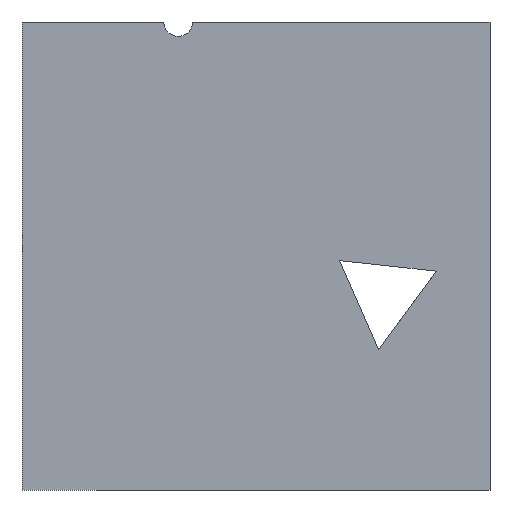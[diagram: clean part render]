
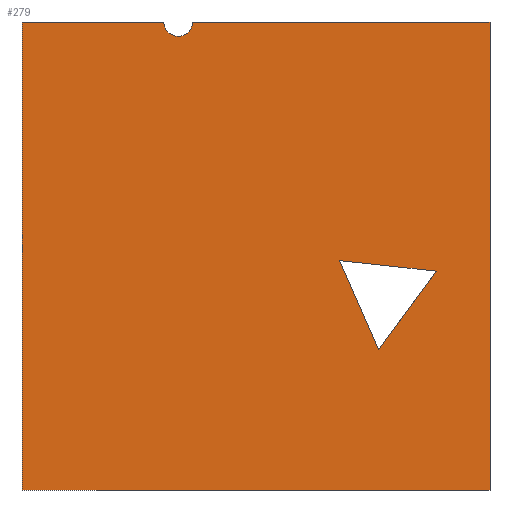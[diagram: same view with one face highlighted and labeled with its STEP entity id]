
A CAD part, front view. The second image highlights one B-rep face of the part: STEP entity #279.
In plain terms, the highlighted planar face has unit normal (0, -1, 0).
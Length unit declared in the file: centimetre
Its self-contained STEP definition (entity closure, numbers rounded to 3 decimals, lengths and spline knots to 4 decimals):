
#4 = VECTOR ( 'NONE', #847, 100. ) ;
#13 = CARTESIAN_POINT ( 'NONE',  ( 1000., 0., 0. ) ) ;
#22 = VERTEX_POINT ( 'NONE', #637 ) ;
#29 = VERTEX_POINT ( 'NONE', #759 ) ;
#37 = ORIENTED_EDGE ( 'NONE', *, *, #307, .T. ) ;
#54 = EDGE_CURVE ( 'NONE', #260, #150, #490, .T. ) ;
#65 = CARTESIAN_POINT ( 'NONE',  ( 0., 0., 0. ) ) ;
#69 = DIRECTION ( 'NONE',  ( 0.402, 0., -0.916 ) ) ;
#72 = CARTESIAN_POINT ( 'NONE',  ( 0., 0., 1000. ) ) ;
#92 = AXIS2_PLACEMENT_3D ( 'NONE', #374, #142, #430 ) ;
#95 = CARTESIAN_POINT ( 'NONE',  ( 364.6023, 0., 1000. ) ) ;
#97 = VERTEX_POINT ( 'NONE', #256 ) ;
#110 = DIRECTION ( 'NONE',  ( 0., 0., -1. ) ) ;
#114 = VECTOR ( 'NONE', #822, 100. ) ;
#131 = EDGE_CURVE ( 'NONE', #22, #707, #784, .T. ) ;
#142 = DIRECTION ( 'NONE',  ( 0., 1., 0. ) ) ;
#148 = AXIS2_PLACEMENT_3D ( 'NONE', #376, #665, #158 ) ;
#150 = VERTEX_POINT ( 'NONE', #13 ) ;
#158 = DIRECTION ( 'NONE',  ( 0., 0., 1. ) ) ;
#163 = DIRECTION ( 'NONE',  ( 0., 0., -1. ) ) ;
#191 = EDGE_CURVE ( 'NONE', #676, #97, #853, .T. ) ;
#196 = ORIENTED_EDGE ( 'NONE', *, *, #845, .F. ) ;
#208 = DIRECTION ( 'NONE',  ( 0.592, 0., 0.806 ) ) ;
#211 = VECTOR ( 'NONE', #208, 100. ) ;
#241 = VERTEX_POINT ( 'NONE', #722 ) ;
#254 = EDGE_CURVE ( 'NONE', #676, #241, #363, .T. ) ;
#256 = CARTESIAN_POINT ( 'NONE',  ( 1000., 0., 1000. ) ) ;
#260 = VERTEX_POINT ( 'NONE', #65 ) ;
#267 = EDGE_CURVE ( 'NONE', #750, #22, #355, .T. ) ;
#279 = ADVANCED_FACE ( 'NONE', ( #661, #600 ), #308, .F. ) ;
#288 = DIRECTION ( 'NONE',  ( -0.994, 0., 0.109 ) ) ;
#290 = CARTESIAN_POINT ( 'NONE',  ( 761.9907, 0., 299.9319 ) ) ;
#298 = CARTESIAN_POINT ( 'NONE',  ( 885.0023, 0., 467.5154 ) ) ;
#307 = EDGE_CURVE ( 'NONE', #29, #260, #448, .T. ) ;
#308 = PLANE ( 'NONE',  #148 ) ;
#355 = LINE ( 'NONE', #712, #562 ) ;
#363 = CIRCLE ( 'NONE', #92, 30.7354 ) ;
#374 = CARTESIAN_POINT ( 'NONE',  ( 333.8669, 0., 1000. ) ) ;
#376 = CARTESIAN_POINT ( 'NONE',  ( 0., 0., 1000. ) ) ;
#390 = CARTESIAN_POINT ( 'NONE',  ( 0., 0., 1000. ) ) ;
#395 = VECTOR ( 'NONE', #163, 100. ) ;
#426 = ORIENTED_EDGE ( 'NONE', *, *, #267, .F. ) ;
#430 = DIRECTION ( 'NONE',  ( 0., 0., 1. ) ) ;
#436 = ORIENTED_EDGE ( 'NONE', *, *, #495, .F. ) ;
#448 = LINE ( 'NONE', #868, #395 ) ;
#469 = LINE ( 'NONE', #683, #896 ) ;
#490 = LINE ( 'NONE', #762, #503 ) ;
#495 = EDGE_CURVE ( 'NONE', #707, #750, #718, .T. ) ;
#503 = VECTOR ( 'NONE', #911, 100. ) ;
#531 = ORIENTED_EDGE ( 'NONE', *, *, #131, .F. ) ;
#562 = VECTOR ( 'NONE', #69, 100. ) ;
#564 = EDGE_LOOP ( 'NONE', ( #426, #436, #531 ) ) ;
#600 = FACE_OUTER_BOUND ( 'NONE', #791, .T. ) ;
#617 = ORIENTED_EDGE ( 'NONE', *, *, #191, .F. ) ;
#637 = CARTESIAN_POINT ( 'NONE',  ( 761.9907, 0., 299.9319 ) ) ;
#648 = VECTOR ( 'NONE', #288, 100. ) ;
#661 = FACE_BOUND ( 'NONE', #564, .T. ) ;
#663 = CARTESIAN_POINT ( 'NONE',  ( 885.0023, 0., 467.5154 ) ) ;
#665 = DIRECTION ( 'NONE',  ( 0., 1., 0. ) ) ;
#676 = VERTEX_POINT ( 'NONE', #95 ) ;
#683 = CARTESIAN_POINT ( 'NONE',  ( 1000., 0., 1000. ) ) ;
#707 = VERTEX_POINT ( 'NONE', #663 ) ;
#712 = CARTESIAN_POINT ( 'NONE',  ( 678.365, 0., 490.2549 ) ) ;
#718 = LINE ( 'NONE', #298, #648 ) ;
#722 = CARTESIAN_POINT ( 'NONE',  ( 303.1314, 0., 1000. ) ) ;
#736 = ORIENTED_EDGE ( 'NONE', *, *, #54, .T. ) ;
#748 = ORIENTED_EDGE ( 'NONE', *, *, #770, .F. ) ;
#750 = VERTEX_POINT ( 'NONE', #753 ) ;
#753 = CARTESIAN_POINT ( 'NONE',  ( 678.365, 0., 490.2549 ) ) ;
#759 = CARTESIAN_POINT ( 'NONE',  ( 0., 0., 1000. ) ) ;
#762 = CARTESIAN_POINT ( 'NONE',  ( 0., 0., 0. ) ) ;
#770 = EDGE_CURVE ( 'NONE', #29, #241, #814, .T. ) ;
#784 = LINE ( 'NONE', #290, #211 ) ;
#791 = EDGE_LOOP ( 'NONE', ( #617, #834, #748, #37, #736, #196 ) ) ;
#814 = LINE ( 'NONE', #390, #114 ) ;
#822 = DIRECTION ( 'NONE',  ( 1., 0., 0. ) ) ;
#834 = ORIENTED_EDGE ( 'NONE', *, *, #254, .T. ) ;
#845 = EDGE_CURVE ( 'NONE', #97, #150, #469, .T. ) ;
#847 = DIRECTION ( 'NONE',  ( 1., 0., 0. ) ) ;
#853 = LINE ( 'NONE', #72, #4 ) ;
#868 = CARTESIAN_POINT ( 'NONE',  ( 0., 0., 1000. ) ) ;
#896 = VECTOR ( 'NONE', #110, 100. ) ;
#911 = DIRECTION ( 'NONE',  ( 1., 0., 0. ) ) ;
